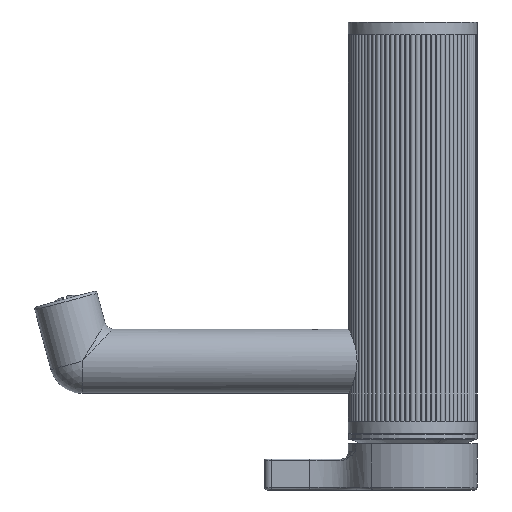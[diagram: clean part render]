
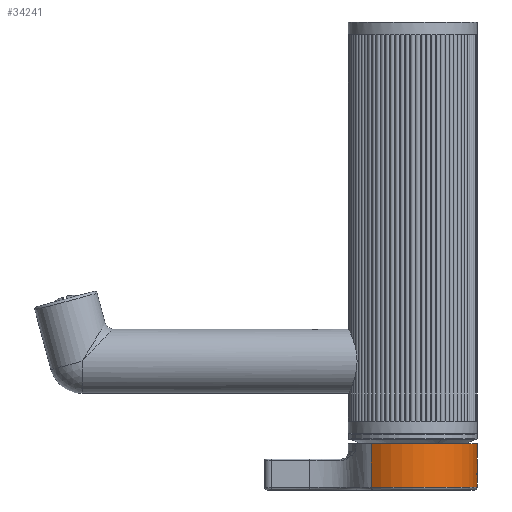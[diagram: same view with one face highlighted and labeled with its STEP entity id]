
A CAD part, front view. The second image highlights one B-rep face of the part: STEP entity #34241.
In plain terms, the highlighted cylindrical face has radius 25 mm (diameter 50 mm), a partial arc.
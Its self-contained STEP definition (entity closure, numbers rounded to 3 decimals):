
#379 = CARTESIAN_POINT ( 'NONE',  ( -2.82, 10.371, -24.841 ) ) ;
#708 = VERTEX_POINT ( 'NONE', #35853 ) ;
#1294 = LINE ( 'NONE', #18493, #2623 ) ;
#2065 = CARTESIAN_POINT ( 'NONE',  ( -3.082, 13.052, -24.809 ) ) ;
#2623 = VECTOR ( 'NONE', #23018, 1000. ) ;
#2858 = VERTEX_POINT ( 'NONE', #28357 ) ;
#3315 = VERTEX_POINT ( 'NONE', #54318 ) ;
#4532 = ORIENTED_EDGE ( 'NONE', *, *, #43465, .T. ) ;
#4918 = CARTESIAN_POINT ( 'NONE',  ( -0.843, 8.854, -24.987 ) ) ;
#5195 = CARTESIAN_POINT ( 'NONE',  ( -2.447, 9.851, -24.88 ) ) ;
#8345 = ORIENTED_EDGE ( 'NONE', *, *, #43322, .T. ) ;
#9424 = CARTESIAN_POINT ( 'NONE',  ( -3.25, 12., -24.788 ) ) ;
#9722 = CARTESIAN_POINT ( 'NONE',  ( -1.628, 14.821, -24.948 ) ) ;
#10251 = CARTESIAN_POINT ( 'NONE',  ( -3.083, 10.951, -24.809 ) ) ;
#13030 = VERTEX_POINT ( 'NONE', #53621 ) ;
#13379 = CARTESIAN_POINT ( 'NONE',  ( 0., 8.75, -25. ) ) ;
#14192 = CARTESIAN_POINT ( 'NONE',  ( -1.628, 9.179, -24.948 ) ) ;
#14241 = EDGE_LOOP ( 'NONE', ( #41141, #4532, #34325, #50926, #51680, #8345, #52931 ) ) ;
#14247 = DIRECTION ( 'NONE',  ( 0., -1., 0. ) ) ;
#14760 = CARTESIAN_POINT ( 'NONE',  ( -2.581, 13.986, -24.867 ) ) ;
#15032 = CARTESIAN_POINT ( 'NONE',  ( -3.229, 12.427, -24.791 ) ) ;
#15672 = DIRECTION ( 'NONE',  ( 0., 0., -1. ) ) ;
#15869 = CARTESIAN_POINT ( 'NONE',  ( -3.145, 12.847, -24.801 ) ) ;
#16709 = DIRECTION ( 'NONE',  ( 0., 0., 1. ) ) ;
#17553 = CARTESIAN_POINT ( 'NONE',  ( 0., 18., -25. ) ) ;
#17945 = VERTEX_POINT ( 'NONE', #49107 ) ;
#18140 = CARTESIAN_POINT ( 'NONE',  ( -1.439, 9.078, -24.959 ) ) ;
#18493 = CARTESIAN_POINT ( 'NONE',  ( -19.152, 18., 16.069 ) ) ;
#19547 = CARTESIAN_POINT ( 'NONE',  ( -3.25, 12.215, -24.788 ) ) ;
#20227 = CARTESIAN_POINT ( 'NONE',  ( -19.152, 0., 16.069 ) ) ;
#20263 = CIRCLE ( 'NONE', #25651, 25. ) ;
#20387 = CARTESIAN_POINT ( 'NONE',  ( -2.92, 13.442, -24.829 ) ) ;
#20755 = DIRECTION ( 'NONE',  ( 0., -1., 0. ) ) ;
#21012 = DIRECTION ( 'NONE',  ( 0., 0., 1. ) ) ;
#22395 = CARTESIAN_POINT ( 'NONE',  ( -0.423, 8.771, -24.997 ) ) ;
#22953 = CARTESIAN_POINT ( 'NONE',  ( -1.441, 14.921, -24.959 ) ) ;
#23018 = DIRECTION ( 'NONE',  ( 0., -1., 0. ) ) ;
#23296 = EDGE_CURVE ( 'NONE', #13030, #2858, #39307, .T. ) ;
#25246 = CARTESIAN_POINT ( 'NONE',  ( 0., 17., 0. ) ) ;
#25651 = AXIS2_PLACEMENT_3D ( 'NONE', #55440, #37953, #16709 ) ;
#26344 = CARTESIAN_POINT ( 'NONE',  ( -3.25, 11.785, -24.788 ) ) ;
#26914 = CARTESIAN_POINT ( 'NONE',  ( -2.447, 14.149, -24.88 ) ) ;
#27288 = CARTESIAN_POINT ( 'NONE',  ( -19.152, 17., 16.069 ) ) ;
#28357 = CARTESIAN_POINT ( 'NONE',  ( 0., 8.75, -25. ) ) ;
#29625 = VERTEX_POINT ( 'NONE', #27288 ) ;
#30872 = VERTEX_POINT ( 'NONE', #20227 ) ;
#31144 = CARTESIAN_POINT ( 'NONE',  ( -0.426, 15.229, -24.997 ) ) ;
#31407 = CARTESIAN_POINT ( 'NONE',  ( -3.146, 11.158, -24.801 ) ) ;
#31735 = LINE ( 'NONE', #49012, #39440 ) ;
#31976 = CARTESIAN_POINT ( 'NONE',  ( -2.819, 13.631, -24.841 ) ) ;
#33422 = EDGE_CURVE ( 'NONE', #29625, #30872, #1294, .T. ) ;
#34241 = ADVANCED_FACE ( 'NONE', ( #42251 ), #50156, .T. ) ;
#34325 = ORIENTED_EDGE ( 'NONE', *, *, #38670, .T. ) ;
#34834 = CARTESIAN_POINT ( 'NONE',  ( -2.147, 9.551, -24.908 ) ) ;
#35656 = CARTESIAN_POINT ( 'NONE',  ( -2.584, 10.018, -24.866 ) ) ;
#35853 = CARTESIAN_POINT ( 'NONE',  ( 0., 17., -25. ) ) ;
#36246 = CARTESIAN_POINT ( 'NONE',  ( -2.148, 14.448, -24.908 ) ) ;
#36516 = CARTESIAN_POINT ( 'NONE',  ( -3.25, 12., -24.788 ) ) ;
#37953 = DIRECTION ( 'NONE',  ( 0., 1., 0. ) ) ;
#38018 = B_SPLINE_CURVE_WITH_KNOTS ( 'NONE', 3,
 ( #39671, #52640, #31144, #53490, #48419, #22953, #9722, #40212, #36246, #26914, #14760, #31976, #20387, #2065, #15869, #15032, #19547, #36516 ),
 .UNSPECIFIED., .F., .F.,
 ( 4, 2, 2, 2, 2, 2, 2, 2, 4 ),
 ( 0.015, 0.016, 0.017, 0.017, 0.018, 0.018, 0.019, 0.02, 0.02 ),
 .UNSPECIFIED. ) ;
#38426 = EDGE_CURVE ( 'NONE', #29625, #708, #48900, .T. ) ;
#38670 = EDGE_CURVE ( 'NONE', #3315, #13030, #38018, .T. ) ;
#39307 = B_SPLINE_CURVE_WITH_KNOTS ( 'NONE', 3,
 ( #9424, #26344, #43879, #31407, #10251, #40196, #379, #35656, #5195, #34834, #52902, #14192, #18140, #52076, #4918, #22395, #48684, #13379 ),
 .UNSPECIFIED., .F., .F.,
 ( 4, 2, 2, 2, 2, 2, 2, 2, 4 ),
 ( 0., 0.001, 0.001, 0.002, 0.003, 0.003, 0.004, 0.004, 0.005 ),
 .UNSPECIFIED. ) ;
#39440 = VECTOR ( 'NONE', #14247, 1000. ) ;
#39671 = CARTESIAN_POINT ( 'NONE',  ( 0., 15.25, -25. ) ) ;
#40133 = VECTOR ( 'NONE', #43032, 1000. ) ;
#40196 = CARTESIAN_POINT ( 'NONE',  ( -2.92, 10.558, -24.829 ) ) ;
#40212 = CARTESIAN_POINT ( 'NONE',  ( -1.981, 14.585, -24.922 ) ) ;
#41141 = ORIENTED_EDGE ( 'NONE', *, *, #38426, .T. ) ;
#42251 = FACE_OUTER_BOUND ( 'NONE', #14241, .T. ) ;
#43032 = DIRECTION ( 'NONE',  ( 0., -1., 0. ) ) ;
#43322 = EDGE_CURVE ( 'NONE', #17945, #30872, #20263, .T. ) ;
#43465 = EDGE_CURVE ( 'NONE', #708, #3315, #47537, .T. ) ;
#43879 = CARTESIAN_POINT ( 'NONE',  ( -3.229, 11.574, -24.791 ) ) ;
#47537 = LINE ( 'NONE', #17553, #40133 ) ;
#48419 = CARTESIAN_POINT ( 'NONE',  ( -1.048, 15.084, -24.979 ) ) ;
#48684 = CARTESIAN_POINT ( 'NONE',  ( -0.212, 8.75, -25. ) ) ;
#48900 = CIRCLE ( 'NONE', #50670, 25. ) ;
#49012 = CARTESIAN_POINT ( 'NONE',  ( 0., 18., -25. ) ) ;
#49107 = CARTESIAN_POINT ( 'NONE',  ( 0., 0., -25. ) ) ;
#50156 = CYLINDRICAL_SURFACE ( 'NONE', #55007, 25. ) ;
#50670 = AXIS2_PLACEMENT_3D ( 'NONE', #25246, #55230, #21012 ) ;
#50719 = CARTESIAN_POINT ( 'NONE',  ( 0., 18., 0. ) ) ;
#50926 = ORIENTED_EDGE ( 'NONE', *, *, #23296, .T. ) ;
#51680 = ORIENTED_EDGE ( 'NONE', *, *, #52358, .T. ) ;
#52076 = CARTESIAN_POINT ( 'NONE',  ( -1.048, 8.916, -24.979 ) ) ;
#52358 = EDGE_CURVE ( 'NONE', #2858, #17945, #31735, .T. ) ;
#52640 = CARTESIAN_POINT ( 'NONE',  ( -0.215, 15.25, -25. ) ) ;
#52902 = CARTESIAN_POINT ( 'NONE',  ( -1.984, 9.417, -24.922 ) ) ;
#52931 = ORIENTED_EDGE ( 'NONE', *, *, #33422, .F. ) ;
#53490 = CARTESIAN_POINT ( 'NONE',  ( -0.841, 15.146, -24.987 ) ) ;
#53621 = CARTESIAN_POINT ( 'NONE',  ( -3.25, 12., -24.788 ) ) ;
#54318 = CARTESIAN_POINT ( 'NONE',  ( 0., 15.25, -25. ) ) ;
#55007 = AXIS2_PLACEMENT_3D ( 'NONE', #50719, #20755, #15672 ) ;
#55230 = DIRECTION ( 'NONE',  ( 0., -1., 0. ) ) ;
#55440 = CARTESIAN_POINT ( 'NONE',  ( 0., 0., 0. ) ) ;
